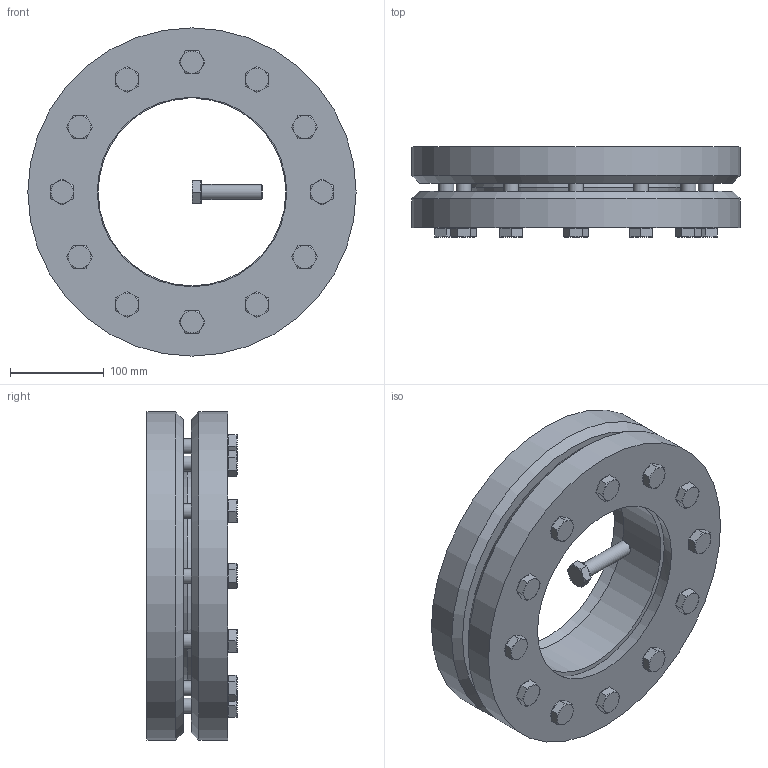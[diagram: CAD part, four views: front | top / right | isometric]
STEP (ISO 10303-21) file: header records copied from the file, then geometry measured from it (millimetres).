
FILE_DESCRIPTION( ( 'Unknown' ), '1' );
FILE_NAME( 'C:/Dokumente und Einstellungen/Sven/Desktop/homepage/cad - homepage/KBS19/KBS 19 - 200 x 350.stp', 'Unknown', ( 'Unknown' ), ( 'Unknown' ), 'XStep 1.0', 'Unknown', ' ' );
FILE_SCHEMA( ( 'automotive_design' ) );
Length unit declared in the file: millimetre
Products named in the file (3): Assem1; KBS 19 - 200 x 350; ISO 4017 - M16 x 65-N
Bounding box: 350 x 96 x 350 mm (x, y, z)
Volume: 9761430.4 mm3; surface area: 911537.4 mm2
Topology: 15 solids, 15 shells, 419 faces, 978 edges, 602 vertices
Faces by surface type: plane 223, cone 103, cylinder 80, torus 13
Full cylindrical faces by diameter (mm): 16 x61, 24 x13, 350 x4
Entity records: 2592 total; most frequent: CARTESIAN_POINT 409, DIRECTION 382, ORIENTED_EDGE 284, AXIS2_PLACEMENT_3D 170, EDGE_LOOP 159, EDGE_CURVE 142, VERTEX_POINT 109, FACE_OUTER_BOUND 101
